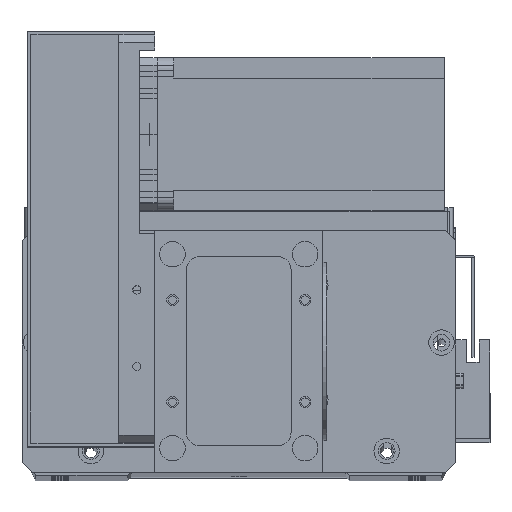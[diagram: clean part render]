
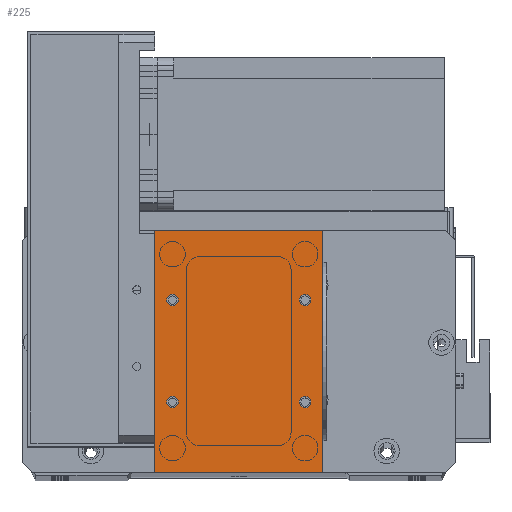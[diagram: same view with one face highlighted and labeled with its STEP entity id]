
A CAD part, top view. The second image highlights one B-rep face of the part: STEP entity #225.
In plain terms, the highlighted planar face has unit normal (0, 0, 1).
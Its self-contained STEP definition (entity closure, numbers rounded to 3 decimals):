
#62 = DIRECTION ( 'NONE',  ( 1., 0., 0. ) ) ;
#225 = ADVANCED_FACE ( 'NONE', ( #21847, #28411, #15262, #8609, #2042 ), #13634, .F. ) ;
#236 = VERTEX_POINT ( 'NONE', #31580 ) ;
#377 = EDGE_LOOP ( 'NONE', ( #4189, #20226 ) ) ;
#757 = CIRCLE ( 'NONE', #19295, 2.25 ) ;
#891 = CARTESIAN_POINT ( 'NONE',  ( 7., 27.5, 2. ) ) ;
#1954 = CARTESIAN_POINT ( 'NONE',  ( 7., 67.5, 2. ) ) ;
#1982 = CARTESIAN_POINT ( 'NONE',  ( 7., 67.5, 2. ) ) ;
#2017 = EDGE_LOOP ( 'NONE', ( #14158, #26907 ) ) ;
#2040 = VERTEX_POINT ( 'NONE', #27349 ) ;
#2042 = FACE_OUTER_BOUND ( 'NONE', #9210, .T. ) ;
#2043 = VERTEX_POINT ( 'NONE', #19762 ) ;
#2123 = EDGE_CURVE ( 'NONE', #236, #6823, #18874, .T. ) ;
#2208 = CARTESIAN_POINT ( 'NONE',  ( 0., 95., 2. ) ) ;
#2370 = CARTESIAN_POINT ( 'NONE',  ( 0., 0., 2. ) ) ;
#3068 = LINE ( 'NONE', #17816, #22088 ) ;
#3292 = ORIENTED_EDGE ( 'NONE', *, *, #29768, .F. ) ;
#3409 = DIRECTION ( 'NONE',  ( 1., 0., 0. ) ) ;
#3609 = AXIS2_PLACEMENT_3D ( 'NONE', #12796, #30114, #15318 ) ;
#4189 = ORIENTED_EDGE ( 'NONE', *, *, #26663, .F. ) ;
#4399 = CIRCLE ( 'NONE', #31900, 2.25 ) ;
#4458 = DIRECTION ( 'NONE',  ( 1., 0., 0. ) ) ;
#4495 = DIRECTION ( 'NONE',  ( 1., 0., 0. ) ) ;
#4521 = ORIENTED_EDGE ( 'NONE', *, *, #10398, .T. ) ;
#4581 = CARTESIAN_POINT ( 'NONE',  ( 56.75, 27.5, 2. ) ) ;
#5247 = CARTESIAN_POINT ( 'NONE',  ( 59., 27.5, 2. ) ) ;
#6178 = EDGE_CURVE ( 'NONE', #29144, #12870, #757, .T. ) ;
#6823 = VERTEX_POINT ( 'NONE', #13421 ) ;
#7332 = EDGE_CURVE ( 'NONE', #6823, #236, #13930, .T. ) ;
#7608 = CARTESIAN_POINT ( 'NONE',  ( 66., 95., 2. ) ) ;
#7629 = AXIS2_PLACEMENT_3D ( 'NONE', #1982, #19348, #4495 ) ;
#7710 = DIRECTION ( 'NONE',  ( 1., 0., 0. ) ) ;
#8452 = ORIENTED_EDGE ( 'NONE', *, *, #13593, .T. ) ;
#8609 = FACE_BOUND ( 'NONE', #13122, .T. ) ;
#9143 = CARTESIAN_POINT ( 'NONE',  ( 0., 0., 2. ) ) ;
#9198 = VECTOR ( 'NONE', #19335, 1000. ) ;
#9210 = EDGE_LOOP ( 'NONE', ( #11145, #8452, #31181, #4521 ) ) ;
#9387 = AXIS2_PLACEMENT_3D ( 'NONE', #5247, #22597, #7710 ) ;
#10054 = CIRCLE ( 'NONE', #7629, 2.25 ) ;
#10376 = CARTESIAN_POINT ( 'NONE',  ( 59., 27.5, 2. ) ) ;
#10398 = EDGE_CURVE ( 'NONE', #16105, #30623, #11032, .T. ) ;
#10590 = DIRECTION ( 'NONE',  ( 0., 0., 1. ) ) ;
#10870 = CARTESIAN_POINT ( 'NONE',  ( 59., 67.5, 2. ) ) ;
#11032 = LINE ( 'NONE', #2208, #17649 ) ;
#11145 = ORIENTED_EDGE ( 'NONE', *, *, #30393, .T. ) ;
#11151 = CARTESIAN_POINT ( 'NONE',  ( 9.25, 27.5, 2. ) ) ;
#12796 = CARTESIAN_POINT ( 'NONE',  ( 59., 67.5, 2. ) ) ;
#12858 = DIRECTION ( 'NONE',  ( 1., 0., 0. ) ) ;
#12870 = VERTEX_POINT ( 'NONE', #4581 ) ;
#13122 = EDGE_LOOP ( 'NONE', ( #13407, #3292 ) ) ;
#13163 = LINE ( 'NONE', #17437, #27153 ) ;
#13288 = VERTEX_POINT ( 'NONE', #11151 ) ;
#13368 = DIRECTION ( 'NONE',  ( 1., 0., 0. ) ) ;
#13407 = ORIENTED_EDGE ( 'NONE', *, *, #29061, .F. ) ;
#13421 = CARTESIAN_POINT ( 'NONE',  ( 61.25, 67.5, 2. ) ) ;
#13593 = EDGE_CURVE ( 'NONE', #14055, #28819, #13163, .T. ) ;
#13634 = PLANE ( 'NONE',  #22900 ) ;
#13930 = CIRCLE ( 'NONE', #21132, 2.25 ) ;
#14055 = VERTEX_POINT ( 'NONE', #9143 ) ;
#14158 = ORIENTED_EDGE ( 'NONE', *, *, #6178, .F. ) ;
#14450 = CARTESIAN_POINT ( 'NONE',  ( 66., 0., 2. ) ) ;
#15057 = ORIENTED_EDGE ( 'NONE', *, *, #7332, .F. ) ;
#15262 = FACE_BOUND ( 'NONE', #2017, .T. ) ;
#15318 = DIRECTION ( 'NONE',  ( 1., 0., 0. ) ) ;
#15551 = AXIS2_PLACEMENT_3D ( 'NONE', #891, #18242, #3409 ) ;
#15826 = LINE ( 'NONE', #14450, #9198 ) ;
#16095 = EDGE_CURVE ( 'NONE', #12870, #29144, #18143, .T. ) ;
#16105 = VERTEX_POINT ( 'NONE', #7608 ) ;
#17437 = CARTESIAN_POINT ( 'NONE',  ( 0., 0., 2. ) ) ;
#17649 = VECTOR ( 'NONE', #19556, 1000. ) ;
#17816 = CARTESIAN_POINT ( 'NONE',  ( 0., 0., 2. ) ) ;
#18143 = CIRCLE ( 'NONE', #9387, 2.25 ) ;
#18242 = DIRECTION ( 'NONE',  ( 0., 0., 1. ) ) ;
#18874 = CIRCLE ( 'NONE', #3609, 2.25 ) ;
#19295 = AXIS2_PLACEMENT_3D ( 'NONE', #10376, #27733, #12858 ) ;
#19320 = DIRECTION ( 'NONE',  ( 0., 0., 1. ) ) ;
#19335 = DIRECTION ( 'NONE',  ( 0., 1., 0. ) ) ;
#19348 = DIRECTION ( 'NONE',  ( 0., 0., 1. ) ) ;
#19556 = DIRECTION ( 'NONE',  ( -1., 0., 0. ) ) ;
#19762 = CARTESIAN_POINT ( 'NONE',  ( 4.75, 67.5, 2. ) ) ;
#19888 = VERTEX_POINT ( 'NONE', #30584 ) ;
#19938 = DIRECTION ( 'NONE',  ( 0., 0., -1. ) ) ;
#20226 = ORIENTED_EDGE ( 'NONE', *, *, #30122, .F. ) ;
#20812 = CARTESIAN_POINT ( 'NONE',  ( 61.25, 27.5, 2. ) ) ;
#21054 = CARTESIAN_POINT ( 'NONE',  ( 0., 95., 2. ) ) ;
#21132 = AXIS2_PLACEMENT_3D ( 'NONE', #10870, #28211, #13368 ) ;
#21847 = FACE_BOUND ( 'NONE', #377, .T. ) ;
#22088 = VECTOR ( 'NONE', #25291, 1000. ) ;
#22395 = AXIS2_PLACEMENT_3D ( 'NONE', #25463, #10590, #27955 ) ;
#22597 = DIRECTION ( 'NONE',  ( 0., 0., 1. ) ) ;
#22900 = AXIS2_PLACEMENT_3D ( 'NONE', #2370, #19938, #28682 ) ;
#23936 = EDGE_CURVE ( 'NONE', #28819, #16105, #15826, .T. ) ;
#25291 = DIRECTION ( 'NONE',  ( 0., -1., 0. ) ) ;
#25463 = CARTESIAN_POINT ( 'NONE',  ( 7., 27.5, 2. ) ) ;
#26663 = EDGE_CURVE ( 'NONE', #19888, #2043, #4399, .T. ) ;
#26907 = ORIENTED_EDGE ( 'NONE', *, *, #16095, .F. ) ;
#27153 = VECTOR ( 'NONE', #62, 1000. ) ;
#27209 = CIRCLE ( 'NONE', #22395, 2.25 ) ;
#27349 = CARTESIAN_POINT ( 'NONE',  ( 4.75, 27.5, 2. ) ) ;
#27733 = DIRECTION ( 'NONE',  ( 0., 0., 1. ) ) ;
#27955 = DIRECTION ( 'NONE',  ( 1., 0., 0. ) ) ;
#28211 = DIRECTION ( 'NONE',  ( 0., 0., 1. ) ) ;
#28411 = FACE_BOUND ( 'NONE', #29759, .T. ) ;
#28682 = DIRECTION ( 'NONE',  ( -1., 0., 0. ) ) ;
#28819 = VERTEX_POINT ( 'NONE', #29353 ) ;
#29061 = EDGE_CURVE ( 'NONE', #13288, #2040, #27209, .T. ) ;
#29144 = VERTEX_POINT ( 'NONE', #20812 ) ;
#29353 = CARTESIAN_POINT ( 'NONE',  ( 66., 0., 2. ) ) ;
#29759 = EDGE_LOOP ( 'NONE', ( #15057, #30079 ) ) ;
#29768 = EDGE_CURVE ( 'NONE', #2040, #13288, #29835, .T. ) ;
#29835 = CIRCLE ( 'NONE', #15551, 2.25 ) ;
#30079 = ORIENTED_EDGE ( 'NONE', *, *, #2123, .F. ) ;
#30114 = DIRECTION ( 'NONE',  ( 0., 0., 1. ) ) ;
#30122 = EDGE_CURVE ( 'NONE', #2043, #19888, #10054, .T. ) ;
#30393 = EDGE_CURVE ( 'NONE', #30623, #14055, #3068, .T. ) ;
#30584 = CARTESIAN_POINT ( 'NONE',  ( 9.25, 67.5, 2. ) ) ;
#30623 = VERTEX_POINT ( 'NONE', #21054 ) ;
#31181 = ORIENTED_EDGE ( 'NONE', *, *, #23936, .T. ) ;
#31580 = CARTESIAN_POINT ( 'NONE',  ( 56.75, 67.5, 2. ) ) ;
#31900 = AXIS2_PLACEMENT_3D ( 'NONE', #1954, #19320, #4458 ) ;
